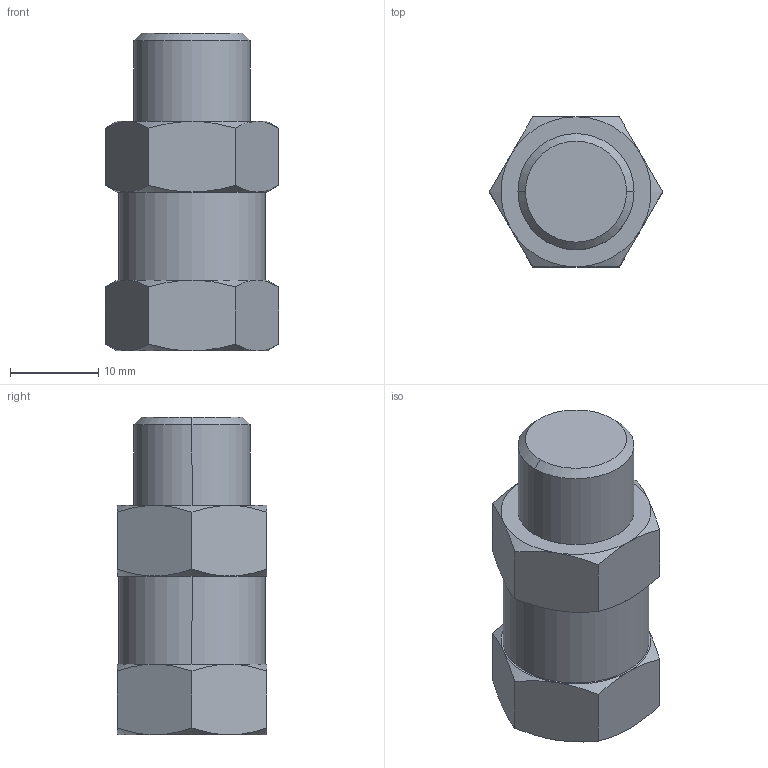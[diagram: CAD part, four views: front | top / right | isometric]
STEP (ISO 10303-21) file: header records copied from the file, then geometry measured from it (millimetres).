
FILE_DESCRIPTION (( 'STEP AP214' ), '1' );
FILE_NAME ('VSVK-G14F.STEP', '2023-01-26T16:37:02', ( '' ), ( '' ), 'SwSTEP 2.0', 'SolidWorks 2018', '' );
FILE_SCHEMA (( 'AUTOMOTIVE_DESIGN' ));
Length unit declared in the file: millimetre
Products named in the file (1): VSVK-G14F
Bounding box: 19.63 x 17 x 36 mm (x, y, z)
Volume: 6235 mm3; surface area: 2771.3 mm2
Topology: 1 solids, 1 shells, 54 faces, 116 edges, 67 vertices
Faces by surface type: cone 30, plane 18, cylinder 6
Entity records: 1487 total; most frequent: CARTESIAN_POINT 332, ORIENTED_EDGE 228, DIRECTION 218, EDGE_CURVE 114, AXIS2_PLACEMENT_3D 97, VERTEX_POINT 67, EDGE_LOOP 59, FACE_OUTER_BOUND 54
